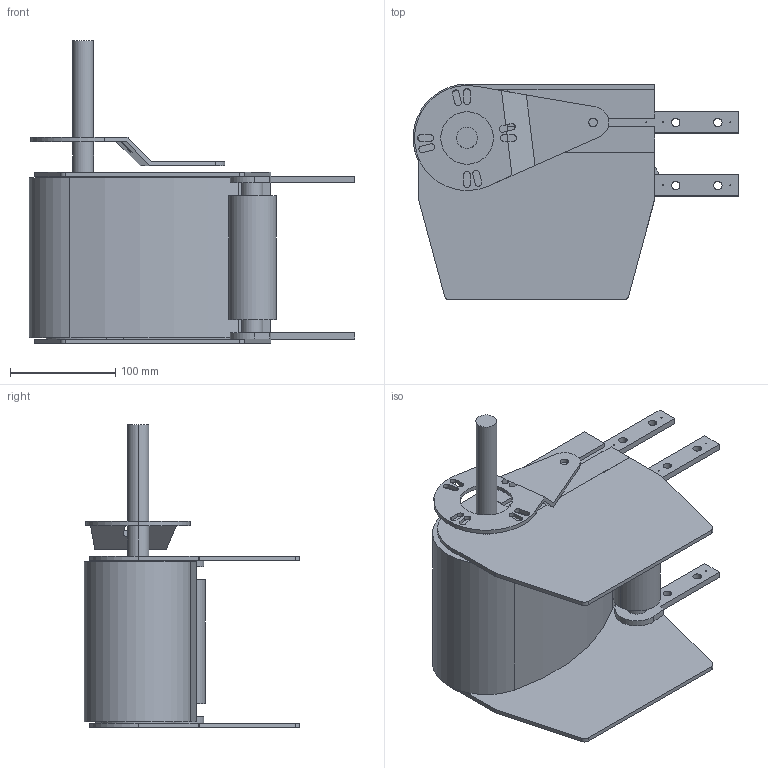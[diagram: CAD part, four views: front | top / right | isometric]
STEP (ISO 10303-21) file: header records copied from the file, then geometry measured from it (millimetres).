
FILE_DESCRIPTION (( 'STEP AP214' ), '1' );
FILE_NAME ('FS-160-MTS-100.ALU Left Drive section 20.STEP', '2017-02-08T09:37:27', ( '' ), ( '' ), 'SwSTEP 2.0', 'SolidWorks 2016', '' );
FILE_SCHEMA (( 'AUTOMOTIVE_DESIGN' ));
Length unit declared in the file: millimetre
Products named in the file (1): FS-160-MTS-100.ALU Left Drive section 20
Bounding box: 309.96 x 205 x 288 mm (x, y, z)
Volume: 1577294.8 mm3; surface area: 467105.1 mm2
Topology: 3 solids, 3 shells, 236 faces, 689 edges, 456 vertices
Faces by surface type: plane 131, cylinder 105
Entity records: 8039 total; most frequent: CARTESIAN_POINT 1394, ORIENTED_EDGE 1378, DIRECTION 1365, EDGE_CURVE 689, VECTOR 479, LINE 479, VERTEX_POINT 456, AXIS2_PLACEMENT_3D 443
